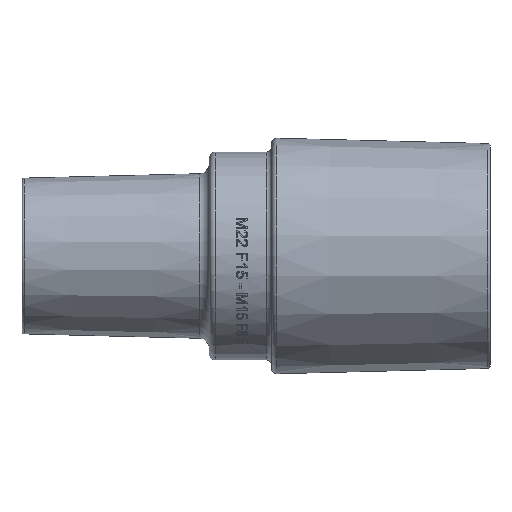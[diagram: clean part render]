
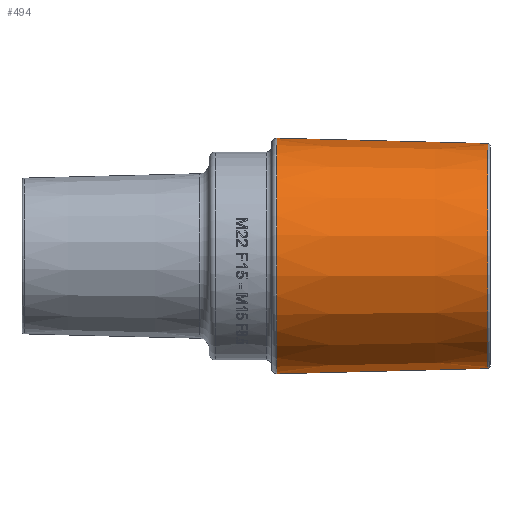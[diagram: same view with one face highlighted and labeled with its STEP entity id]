
A CAD part, top view. The second image highlights one B-rep face of the part: STEP entity #494.
In plain terms, the highlighted conical face has half-angle 1.432 degrees and reference radius 11.335 mm.
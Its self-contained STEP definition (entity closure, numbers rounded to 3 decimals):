
#227=CONICAL_SURFACE('',#4010,11.335,1.432);
#275=FACE_OUTER_BOUND('',#1295,.T.);
#494=ADVANCED_FACE('',(#275),#227,.T.);
#780=CIRCLE('',#4008,10.815);
#781=CIRCLE('',#4009,11.322);
#799=LINE('',#5937,#983);
#800=LINE('',#5938,#984);
#983=VECTOR('',#4289,1.);
#984=VECTOR('',#4290,1.);
#1295=EDGE_LOOP('',(#1784,#1785,#1786,#1787));
#1784=ORIENTED_EDGE('',*,*,#3180,.F.);
#1785=ORIENTED_EDGE('',*,*,#3229,.F.);
#1786=ORIENTED_EDGE('',*,*,#3181,.T.);
#1787=ORIENTED_EDGE('',*,*,#3230,.F.);
#2788=VERTEX_POINT('',#5898);
#2789=VERTEX_POINT('',#5899);
#2794=VERTEX_POINT('',#5913);
#2795=VERTEX_POINT('',#5914);
#3180=EDGE_CURVE('',#2794,#2789,#799,.T.);
#3181=EDGE_CURVE('',#2795,#2788,#800,.T.);
#3229=EDGE_CURVE('',#2795,#2794,#780,.T.);
#3230=EDGE_CURVE('',#2789,#2788,#781,.T.);
#4008=AXIS2_PLACEMENT_3D('',#6033,#4425,#4426);
#4009=AXIS2_PLACEMENT_3D('',#6034,#4427,#4428);
#4010=AXIS2_PLACEMENT_3D('',#6035,#4429,#4430);
#4289=DIRECTION('',(-1.,-0.025,0.));
#4290=DIRECTION('',(-1.,0.025,0.));
#4425=DIRECTION('',(1.,0.,0.));
#4426=DIRECTION('',(0.,-1.,0.));
#4427=DIRECTION('',(-1.,0.,0.));
#4428=DIRECTION('',(0.,-1.,0.));
#4429=DIRECTION('',(-1.,0.,0.));
#4430=DIRECTION('',(0.,-1.,0.));
#5898=CARTESIAN_POINT('',(3.512,-5.678,-176.));
#5899=CARTESIAN_POINT('',(3.512,-28.322,-176.));
#5913=CARTESIAN_POINT('',(23.805,-27.815,-176.));
#5914=CARTESIAN_POINT('',(23.805,-6.185,-176.));
#5937=CARTESIAN_POINT('',(3.,-28.335,-176.));
#5938=CARTESIAN_POINT('',(3.,-5.665,-176.));
#6033=CARTESIAN_POINT('',(23.805,-17.,-176.));
#6034=CARTESIAN_POINT('',(3.512,-17.,-176.));
#6035=CARTESIAN_POINT('',(3.,-17.,-176.));
